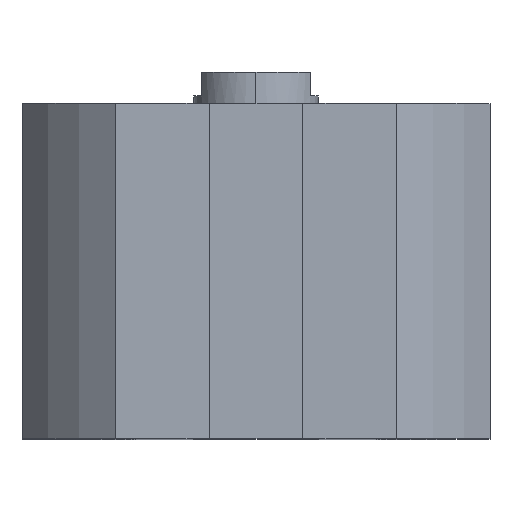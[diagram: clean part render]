
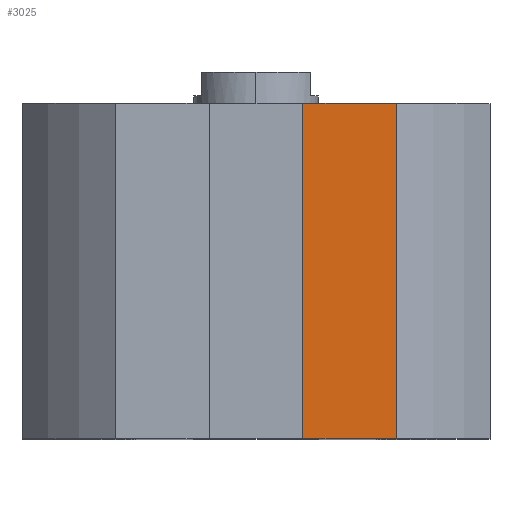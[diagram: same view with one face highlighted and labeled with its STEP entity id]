
A CAD part, top view. The second image highlights one B-rep face of the part: STEP entity #3025.
In plain terms, the highlighted planar face has unit normal (0, 0, 1).
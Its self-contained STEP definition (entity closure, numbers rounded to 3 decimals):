
#122 = ORIENTED_EDGE ( 'NONE', *, *, #3362, .F. ) ;
#163 = LINE ( 'NONE', #2814, #1725 ) ;
#164 = CARTESIAN_POINT ( 'NONE',  ( 6., 0., 30. ) ) ;
#252 = EDGE_CURVE ( 'NONE', #2706, #2499, #924, .T. ) ;
#268 = CARTESIAN_POINT ( 'NONE',  ( 18.028, -43., 30. ) ) ;
#311 = DIRECTION ( 'NONE',  ( 1., 0., 0. ) ) ;
#323 = FACE_OUTER_BOUND ( 'NONE', #2120, .T. ) ;
#353 = CARTESIAN_POINT ( 'NONE',  ( 0., -43., 30. ) ) ;
#391 = VERTEX_POINT ( 'NONE', #679 ) ;
#679 = CARTESIAN_POINT ( 'NONE',  ( 18.028, 0., 30. ) ) ;
#718 = CARTESIAN_POINT ( 'NONE',  ( 18.028, -43., 30. ) ) ;
#730 = LINE ( 'NONE', #718, #2097 ) ;
#731 = DIRECTION ( 'NONE',  ( 0., 1., 0. ) ) ;
#924 = LINE ( 'NONE', #1179, #2993 ) ;
#1179 = CARTESIAN_POINT ( 'NONE',  ( 6., -43., 30. ) ) ;
#1186 = DIRECTION ( 'NONE',  ( 1., 0., 0. ) ) ;
#1194 = VECTOR ( 'NONE', #311, 1000. ) ;
#1361 = CARTESIAN_POINT ( 'NONE',  ( 0., 0., 30. ) ) ;
#1622 = ORIENTED_EDGE ( 'NONE', *, *, #2009, .T. ) ;
#1717 = DIRECTION ( 'NONE',  ( 0., 0., 1. ) ) ;
#1725 = VECTOR ( 'NONE', #1186, 1000. ) ;
#1757 = LINE ( 'NONE', #1361, #1194 ) ;
#1969 = PLANE ( 'NONE',  #2589 ) ;
#2009 = EDGE_CURVE ( 'NONE', #2915, #391, #730, .T. ) ;
#2097 = VECTOR ( 'NONE', #731, 1000. ) ;
#2120 = EDGE_LOOP ( 'NONE', ( #122, #2342, #2890, #1622 ) ) ;
#2342 = ORIENTED_EDGE ( 'NONE', *, *, #252, .F. ) ;
#2405 = EDGE_CURVE ( 'NONE', #2706, #2915, #163, .T. ) ;
#2499 = VERTEX_POINT ( 'NONE', #164 ) ;
#2589 = AXIS2_PLACEMENT_3D ( 'NONE', #353, #1717, #3203 ) ;
#2706 = VERTEX_POINT ( 'NONE', #3315 ) ;
#2814 = CARTESIAN_POINT ( 'NONE',  ( 0., -43., 30. ) ) ;
#2890 = ORIENTED_EDGE ( 'NONE', *, *, #2405, .T. ) ;
#2915 = VERTEX_POINT ( 'NONE', #268 ) ;
#2993 = VECTOR ( 'NONE', #3325, 1000. ) ;
#3025 = ADVANCED_FACE ( 'NONE', ( #323 ), #1969, .T. ) ;
#3203 = DIRECTION ( 'NONE',  ( 1., 0., 0. ) ) ;
#3315 = CARTESIAN_POINT ( 'NONE',  ( 6., -43., 30. ) ) ;
#3325 = DIRECTION ( 'NONE',  ( 0., 1., 0. ) ) ;
#3362 = EDGE_CURVE ( 'NONE', #2499, #391, #1757, .T. ) ;
